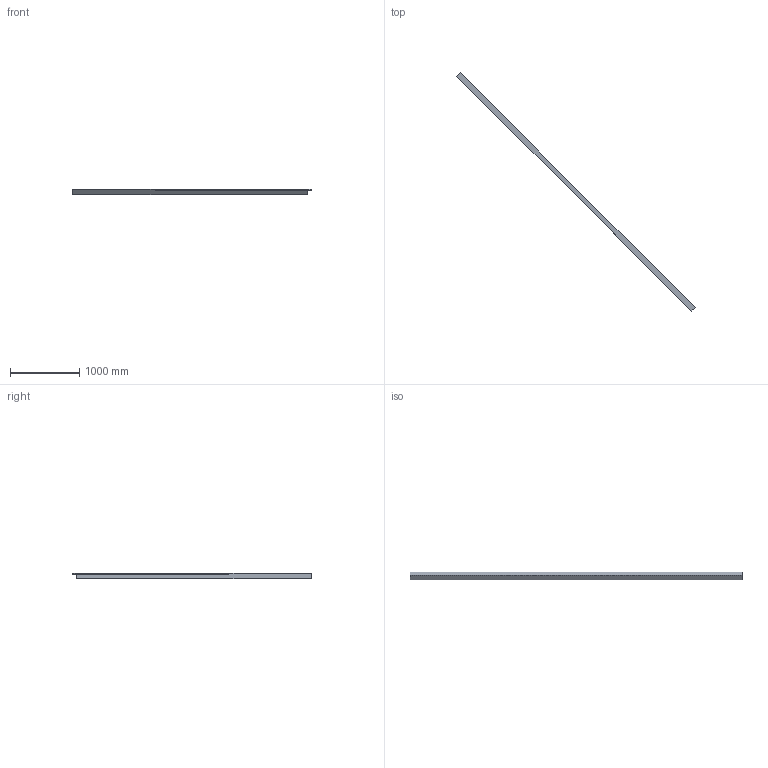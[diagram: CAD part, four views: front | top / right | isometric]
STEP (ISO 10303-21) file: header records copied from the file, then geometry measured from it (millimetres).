
FILE_DESCRIPTION(('Open CASCADE Model'),'2;1');
FILE_NAME('Open CASCADE Shape Model','2026-09-19T12:55:22',('Author'),( 'Open CASCADE'),'Open CASCADE STEP processor 7.9','Open CASCADE 7.9' ,'Unknown');
FILE_SCHEMA(('AUTOMOTIVE_DESIGN { 1 0 10303 214 1 1 1 1 }'));
Length unit declared in the file: millimetre
Products named in the file (1): Open CASCADE STEP translator 7.9 365
Bounding box: 3433.88 x 3433.88 x 76.2 mm (x, y, z)
Volume: 6505084.3 mm3; surface area: 1459678.5 mm2
Topology: 1 solids, 1 shells, 8 faces, 18 edges, 12 vertices
Faces by surface type: plane 8
Entity records: 466 total; most frequent: CARTESIAN_POINT 75, DIRECTION 72, LINE 54, VECTOR 54, ORIENTED_EDGE 36, PCURVE 36, DEFINITIONAL_REPRESENTATION 36, EDGE_CURVE 18
